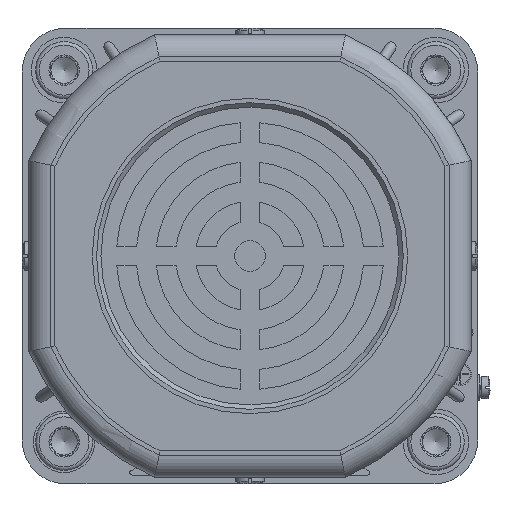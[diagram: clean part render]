
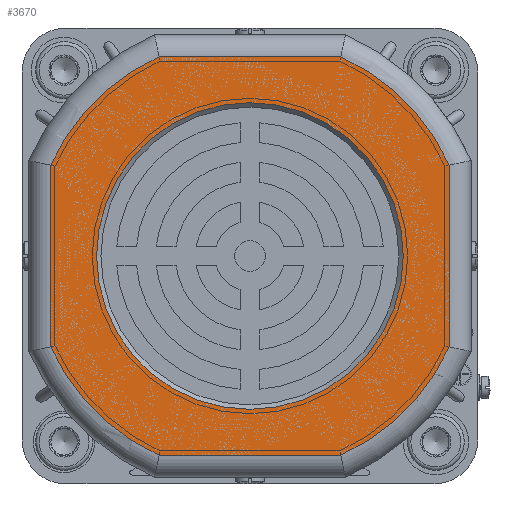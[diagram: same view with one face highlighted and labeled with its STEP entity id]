
A CAD part, left-side view. The second image highlights one B-rep face of the part: STEP entity #3670.
In plain terms, the highlighted planar face has unit normal (-1, 0, 0).
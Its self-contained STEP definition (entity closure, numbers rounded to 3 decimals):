
#2824=FACE_BOUND('',#7535,.T.);
#2825=FACE_BOUND('',#7536,.T.);
#3670=ADVANCED_FACE('',(#2824,#2825),#5342,.F.);
#5342=PLANE('',#31115);
#7535=EDGE_LOOP('',(#11307,#11308,#11309,#11310,#11311,#11312,#11313,#11314));
#7536=EDGE_LOOP('',(#11315));
#11307=ORIENTED_EDGE('',*,*,#22158,.T.);
#11308=ORIENTED_EDGE('',*,*,#22159,.T.);
#11309=ORIENTED_EDGE('',*,*,#22160,.T.);
#11310=ORIENTED_EDGE('',*,*,#22161,.T.);
#11311=ORIENTED_EDGE('',*,*,#22162,.T.);
#11312=ORIENTED_EDGE('',*,*,#22163,.T.);
#11313=ORIENTED_EDGE('',*,*,#22164,.T.);
#11314=ORIENTED_EDGE('',*,*,#22165,.T.);
#11315=ORIENTED_EDGE('',*,*,#22166,.T.);
#19289=VERTEX_POINT('',#41966);
#19290=VERTEX_POINT('',#41967);
#19291=VERTEX_POINT('',#41969);
#19292=VERTEX_POINT('',#41971);
#19293=VERTEX_POINT('',#41973);
#19294=VERTEX_POINT('',#41975);
#19295=VERTEX_POINT('',#41977);
#19296=VERTEX_POINT('',#41979);
#19297=VERTEX_POINT('',#41982);
#22158=EDGE_CURVE('',#19289,#19290,#26062,.T.);
#22159=EDGE_CURVE('',#19290,#19291,#29538,.T.);
#22160=EDGE_CURVE('',#19291,#19292,#26063,.T.);
#22161=EDGE_CURVE('',#19292,#19293,#29539,.T.);
#22162=EDGE_CURVE('',#19293,#19294,#26064,.T.);
#22163=EDGE_CURVE('',#19294,#19295,#29540,.T.);
#22164=EDGE_CURVE('',#19295,#19296,#26065,.T.);
#22165=EDGE_CURVE('',#19296,#19289,#29541,.T.);
#22166=EDGE_CURVE('',#19297,#19297,#29542,.T.);
#26062=LINE('',#41965,#27528);
#26063=LINE('',#41970,#27529);
#26064=LINE('',#41974,#27530);
#26065=LINE('',#41978,#27531);
#27528=VECTOR('',#34465,1.);
#27529=VECTOR('',#34468,1.);
#27530=VECTOR('',#34471,1.);
#27531=VECTOR('',#34474,1.);
#29538=CIRCLE('',#31110,50.);
#29539=CIRCLE('',#31111,50.);
#29540=CIRCLE('',#31112,50.);
#29541=CIRCLE('',#31113,50.);
#29542=CIRCLE('',#31114,35.);
#31110=AXIS2_PLACEMENT_3D('',#41968,#34466,#34467);
#31111=AXIS2_PLACEMENT_3D('',#41972,#34469,#34470);
#31112=AXIS2_PLACEMENT_3D('',#41976,#34472,#34473);
#31113=AXIS2_PLACEMENT_3D('',#41980,#34475,#34476);
#31114=AXIS2_PLACEMENT_3D('',#41981,#34477,#34478);
#31115=AXIS2_PLACEMENT_3D('',#41983,#34479,#34480);
#34465=DIRECTION('',(0.,-1.,0.));
#34466=DIRECTION('',(-1.,0.,0.));
#34467=DIRECTION('',(0.,0.,1.));
#34468=DIRECTION('',(0.,0.,1.));
#34469=DIRECTION('',(-1.,0.,0.));
#34470=DIRECTION('',(0.,0.,1.));
#34471=DIRECTION('',(0.,1.,0.));
#34472=DIRECTION('',(-1.,0.,0.));
#34473=DIRECTION('',(0.,0.,1.));
#34474=DIRECTION('',(0.,0.,-1.));
#34475=DIRECTION('',(-1.,0.,0.));
#34476=DIRECTION('',(0.,0.,1.));
#34477=DIRECTION('',(1.,0.,0.));
#34478=DIRECTION('',(0.,-1.,0.));
#34479=DIRECTION('',(1.,0.,0.));
#34480=DIRECTION('',(0.,0.,1.));
#41965=CARTESIAN_POINT('',(-298.374,-23.628,-45.5));
#41966=CARTESIAN_POINT('',(-298.374,18.891,-45.5));
#41967=CARTESIAN_POINT('',(-298.374,-22.569,-45.5));
#41968=CARTESIAN_POINT('',(-298.374,-1.839,0.));
#41969=CARTESIAN_POINT('',(-298.374,-47.339,-20.73));
#41970=CARTESIAN_POINT('',(-298.374,-47.339,21.789));
#41971=CARTESIAN_POINT('',(-298.374,-47.339,20.73));
#41972=CARTESIAN_POINT('',(-298.374,-1.839,0.));
#41973=CARTESIAN_POINT('',(-298.374,-22.569,45.5));
#41974=CARTESIAN_POINT('',(-298.374,19.95,45.5));
#41975=CARTESIAN_POINT('',(-298.374,18.891,45.5));
#41976=CARTESIAN_POINT('',(-298.374,-1.839,0.));
#41977=CARTESIAN_POINT('',(-298.374,43.661,20.73));
#41978=CARTESIAN_POINT('',(-298.374,43.661,-21.789));
#41979=CARTESIAN_POINT('',(-298.374,43.661,-20.73));
#41980=CARTESIAN_POINT('',(-298.374,-1.839,0.));
#41981=CARTESIAN_POINT('',(-298.374,-1.839,0.));
#41982=CARTESIAN_POINT('',(-298.374,-36.839,0.));
#41983=CARTESIAN_POINT('',(-298.374,-1.839,0.));
